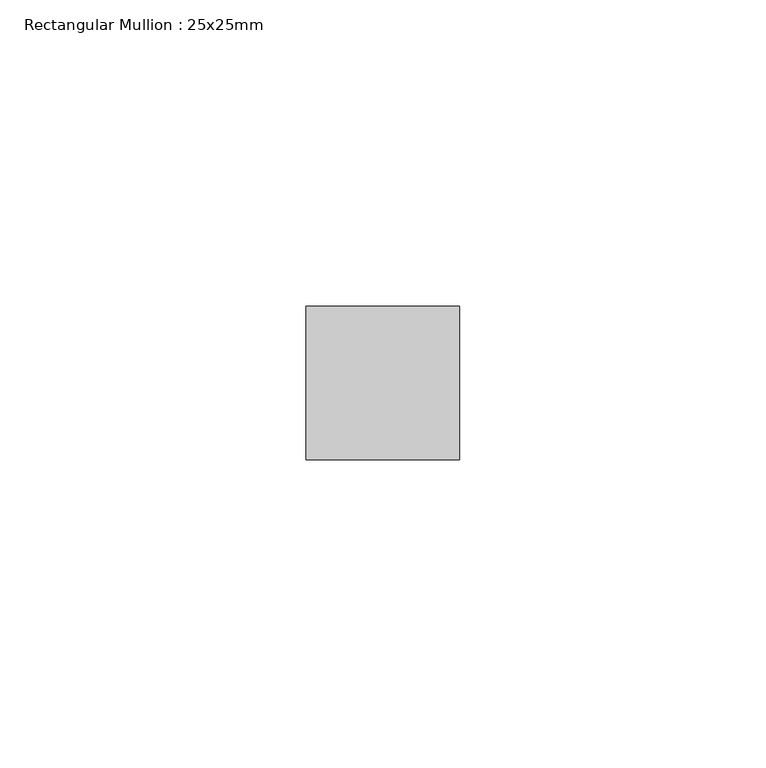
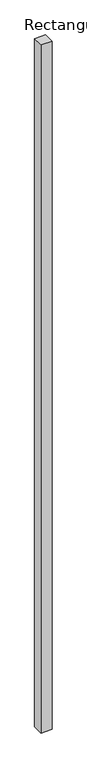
"""IFC4 building model written with IfcOpenShell, lengths in millimetres: member geometry, Rectangular Mullion : 25x25mm."""

from ifc_helpers import new_model, si_unit, frame, origin, place, context, project, spatial, polyline, outline, extrude, source, transform, mapped, element, save


def rectangular_mullion_25x25mm_b2ae1b76(model_context):
    return source(origin(), model_context, "Body", "SweptSolid", [
        extrude(outline(polyline([(0.0, 0.5), (0.0, -24.5), (-25.0, -24.5), (-25.0, 0.5), (0.0, 0.5)])), frame((0.0, 0.0, -1670.0), z_axis=(0.0, 0.0, 1.0), x_axis=(1.0, 0.0, 0.0)), (0.0, 0.0, 1.0), 1670.0),
    ])


if __name__ == "__main__":
    model = new_model("IFC4")
    model_context = context("Model", 3, world=origin())
    ifc_project = project(units=[si_unit("LENGTHUNIT", "METRE", prefix="MILLI")], contexts=[model_context])
    site = spatial("IfcSite", under=ifc_project)
    building = spatial("IfcBuilding", under=site)
    placement = place(None, origin())
    rectangular_mullion_25x25mm_shape = rectangular_mullion_25x25mm_b2ae1b76(model_context)
    element("IfcMember", 1, ObjectType="Rectangular Mullion : 25x25mm", at=placement, inside=building, context=model_context, shape_type="MappedRepresentation", body=[
        mapped(rectangular_mullion_25x25mm_shape, transform((0.0, 0.0, 0.0), x_axis=(1.0, 0.0, 0.0), y_axis=(0.0, 1.0, 0.0), z_axis=(0.0, 0.0, 1.0))),
    ])
    save(model, "model.ifc")
